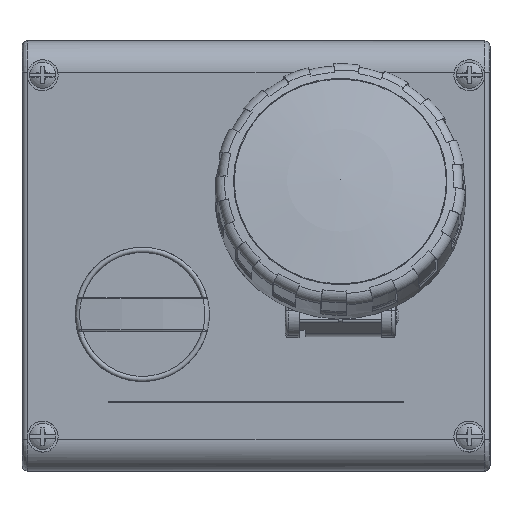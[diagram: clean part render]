
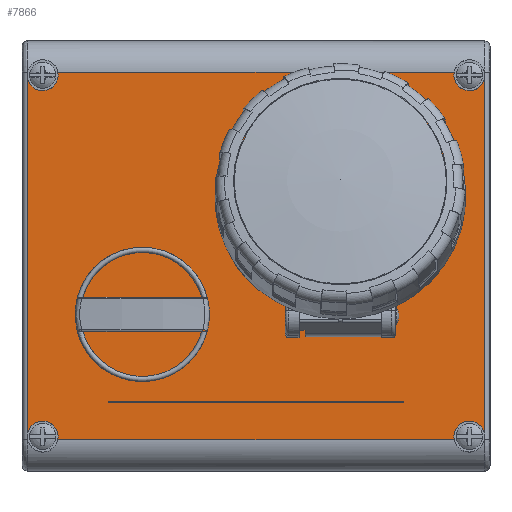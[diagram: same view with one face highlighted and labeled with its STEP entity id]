
A CAD part, top view. The second image highlights one B-rep face of the part: STEP entity #7866.
In plain terms, the highlighted planar face has unit normal (0, 0, 1).
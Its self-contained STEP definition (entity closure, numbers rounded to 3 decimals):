
#343=ELLIPSE('',#28028,25.623,24.75);
#344=ELLIPSE('',#28030,25.623,24.75);
#345=ELLIPSE('',#28032,25.623,24.75);
#355=ELLIPSE('',#28051,6.212,6.);
#356=ELLIPSE('',#28053,1.035,1.);
#367=ELLIPSE('',#28102,1.035,1.);
#845=B_SPLINE_CURVE_WITH_KNOTS('',3,(#49066,#49067,#49068,#49069,#49070,
#49071,#49072,#49073,#49074,#49075,#49076),.UNSPECIFIED.,.F.,.F.,(4,1,1,
1,1,1,1,1,4),(0.,0.063,0.127,0.253,0.5,
0.747,0.873,0.937,1.),.UNSPECIFIED.);
#846=B_SPLINE_CURVE_WITH_KNOTS('',3,(#49080,#49081,#49082,#49083,#49084,
#49085,#49086,#49087,#49088,#49089,#49090),.UNSPECIFIED.,.F.,.F.,(4,1,1,
1,1,1,1,1,4),(0.,0.063,0.127,0.253,
0.5,0.747,0.873,0.937,
1.),.UNSPECIFIED.);
#6990=FACE_BOUND('',#9970,.T.);
#6991=FACE_BOUND('',#9971,.T.);
#6992=FACE_BOUND('',#9972,.T.);
#7866=ADVANCED_FACE('',(#6990,#6991,#6992),#8282,.T.);
#8282=PLANE('',#28108);
#9970=EDGE_LOOP('',(#18651,#18652,#18653,#18654,#18655,#18656,#18657,#18658));
#9971=EDGE_LOOP('',(#18659,#18660,#18661,#18662));
#9972=EDGE_LOOP('',(#18663,#18664,#18665,#18666,#18667,#18668,#18669,#18670,
#18671,#18672,#18673,#18674));
#11884=LINE('',#48419,#13801);
#11885=LINE('',#48498,#13802);
#11886=LINE('',#48796,#13803);
#11888=LINE('',#49006,#13805);
#11889=LINE('',#49023,#13806);
#11898=LINE('',#49049,#13815);
#11901=LINE('',#49054,#13818);
#11905=LINE('',#49078,#13822);
#11906=LINE('',#49091,#13823);
#11907=LINE('',#49092,#13824);
#11908=LINE('',#49094,#13825);
#11909=LINE('',#49095,#13826);
#13801=VECTOR('',#33689,1.);
#13802=VECTOR('',#33692,1.);
#13803=VECTOR('',#33699,1.);
#13805=VECTOR('',#33727,1.);
#13806=VECTOR('',#33732,1.);
#13815=VECTOR('',#33753,1.);
#13818=VECTOR('',#33758,1.);
#13822=VECTOR('',#33776,1.);
#13823=VECTOR('',#33777,1.);
#13824=VECTOR('',#33778,1.);
#13825=VECTOR('',#33779,1.);
#13826=VECTOR('',#33780,1.);
#18651=ORIENTED_EDGE('',*,*,#25116,.T.);
#18652=ORIENTED_EDGE('',*,*,#25173,.F.);
#18653=ORIENTED_EDGE('',*,*,#25135,.T.);
#18654=ORIENTED_EDGE('',*,*,#25141,.F.);
#18655=ORIENTED_EDGE('',*,*,#25122,.T.);
#18656=ORIENTED_EDGE('',*,*,#25174,.F.);
#18657=ORIENTED_EDGE('',*,*,#25150,.T.);
#18658=ORIENTED_EDGE('',*,*,#25143,.F.);
#18659=ORIENTED_EDGE('',*,*,#25175,.T.);
#18660=ORIENTED_EDGE('',*,*,#25176,.T.);
#18661=ORIENTED_EDGE('',*,*,#25177,.T.);
#18662=ORIENTED_EDGE('',*,*,#25153,.F.);
#18663=ORIENTED_EDGE('',*,*,#25036,.T.);
#18664=ORIENTED_EDGE('',*,*,#25178,.T.);
#18665=ORIENTED_EDGE('',*,*,#25067,.F.);
#18666=ORIENTED_EDGE('',*,*,#25179,.F.);
#18667=ORIENTED_EDGE('',*,*,#25180,.T.);
#18668=ORIENTED_EDGE('',*,*,#25031,.T.);
#18669=ORIENTED_EDGE('',*,*,#25181,.T.);
#18670=ORIENTED_EDGE('',*,*,#25165,.T.);
#18671=ORIENTED_EDGE('',*,*,#25171,.T.);
#18672=ORIENTED_EDGE('',*,*,#25168,.F.);
#18673=ORIENTED_EDGE('',*,*,#25026,.T.);
#18674=ORIENTED_EDGE('',*,*,#25065,.T.);
#21522=VERTEX_POINT('',#47917);
#21523=VERTEX_POINT('',#47919);
#21527=VERTEX_POINT('',#47942);
#21528=VERTEX_POINT('',#47944);
#21532=VERTEX_POINT('',#47967);
#21533=VERTEX_POINT('',#47969);
#21557=VERTEX_POINT('',#48058);
#21559=VERTEX_POINT('',#48061);
#21600=VERTEX_POINT('',#48418);
#21601=VERTEX_POINT('',#48420);
#21605=VERTEX_POINT('',#48497);
#21606=VERTEX_POINT('',#48499);
#21613=VERTEX_POINT('',#48795);
#21614=VERTEX_POINT('',#48797);
#21618=VERTEX_POINT('',#48976);
#21623=VERTEX_POINT('',#49007);
#21625=VERTEX_POINT('',#49022);
#21626=VERTEX_POINT('',#49024);
#21632=VERTEX_POINT('',#49048);
#21633=VERTEX_POINT('',#49050);
#21634=VERTEX_POINT('',#49055);
#21635=VERTEX_POINT('',#49077);
#21636=VERTEX_POINT('',#49079);
#21637=VERTEX_POINT('',#49093);
#25026=EDGE_CURVE('',#21523,#21522,#343,.T.);
#25031=EDGE_CURVE('',#21528,#21527,#344,.T.);
#25036=EDGE_CURVE('',#21533,#21532,#345,.T.);
#25065=EDGE_CURVE('',#21522,#21533,#355,.T.);
#25067=EDGE_CURVE('',#21557,#21559,#356,.T.);
#25116=EDGE_CURVE('',#21601,#21600,#11884,.T.);
#25122=EDGE_CURVE('',#21606,#21605,#11885,.T.);
#25135=EDGE_CURVE('',#21614,#21613,#11886,.T.);
#25141=EDGE_CURVE('',#21606,#21613,#26191,.T.);
#25143=EDGE_CURVE('',#21601,#21618,#26193,.T.);
#25150=EDGE_CURVE('',#21623,#21618,#11888,.T.);
#25153=EDGE_CURVE('',#21625,#21626,#11889,.T.);
#25165=EDGE_CURVE('',#21633,#21632,#11898,.T.);
#25168=EDGE_CURVE('',#21523,#21634,#11901,.T.);
#25171=EDGE_CURVE('',#21632,#21634,#367,.T.);
#25173=EDGE_CURVE('',#21614,#21600,#26199,.T.);
#25174=EDGE_CURVE('',#21623,#21605,#26200,.T.);
#25175=EDGE_CURVE('',#21625,#21635,#845,.T.);
#25176=EDGE_CURVE('',#21635,#21636,#11905,.T.);
#25177=EDGE_CURVE('',#21636,#21626,#846,.T.);
#25178=EDGE_CURVE('',#21532,#21559,#11906,.T.);
#25179=EDGE_CURVE('',#21637,#21557,#11907,.T.);
#25180=EDGE_CURVE('',#21637,#21528,#11908,.T.);
#25181=EDGE_CURVE('',#21527,#21633,#11909,.T.);
#26191=CIRCLE('',#28081,4.5);
#26193=CIRCLE('',#28084,4.5);
#26199=CIRCLE('',#28106,4.5);
#26200=CIRCLE('',#28107,4.5);
#28028=AXIS2_PLACEMENT_3D('',#47918,#33564,#33565);
#28030=AXIS2_PLACEMENT_3D('',#47943,#33570,#33571);
#28032=AXIS2_PLACEMENT_3D('',#47968,#33576,#33577);
#28051=AXIS2_PLACEMENT_3D('',#48055,#33626,#33627);
#28053=AXIS2_PLACEMENT_3D('',#48060,#33631,#33632);
#28081=AXIS2_PLACEMENT_3D('',#48971,#33705,#33706);
#28084=AXIS2_PLACEMENT_3D('',#48975,#33711,#33712);
#28102=AXIS2_PLACEMENT_3D('',#49059,#33763,#33764);
#28106=AXIS2_PLACEMENT_3D('',#49064,#33772,#33773);
#28107=AXIS2_PLACEMENT_3D('',#49065,#33774,#33775);
#28108=AXIS2_PLACEMENT_3D('',#49096,#33781,#33782);
#33564=DIRECTION('',(0.,0.,-1.));
#33565=DIRECTION('',(0.,-1.,0.));
#33570=DIRECTION('',(0.,0.,-1.));
#33571=DIRECTION('',(0.,-1.,0.));
#33576=DIRECTION('',(0.,0.,-1.));
#33577=DIRECTION('',(0.,-1.,0.));
#33626=DIRECTION('',(0.,0.,-1.));
#33627=DIRECTION('',(0.,-1.,0.));
#33631=DIRECTION('',(0.,0.,1.));
#33632=DIRECTION('',(0.,-1.,0.));
#33689=DIRECTION('',(1.,0.,0.));
#33692=DIRECTION('',(-1.,0.,0.));
#33699=DIRECTION('',(0.,1.,0.));
#33705=DIRECTION('',(0.,0.,1.));
#33706=DIRECTION('',(1.,0.,0.));
#33711=DIRECTION('',(0.,0.,1.));
#33712=DIRECTION('',(1.,0.,0.));
#33727=DIRECTION('',(0.,-1.,0.));
#33732=DIRECTION('',(1.,0.,0.));
#33753=DIRECTION('',(-1.,0.,0.));
#33758=DIRECTION('',(0.,-1.,0.));
#33763=DIRECTION('',(0.,0.,-1.));
#33764=DIRECTION('',(0.,-1.,0.));
#33772=DIRECTION('',(0.,0.,1.));
#33773=DIRECTION('',(1.,0.,0.));
#33774=DIRECTION('',(0.,0.,1.));
#33775=DIRECTION('',(1.,0.,0.));
#33776=DIRECTION('',(1.,0.,0.));
#33777=DIRECTION('',(0.,-1.,0.));
#33778=DIRECTION('',(1.,0.,0.));
#33779=DIRECTION('',(0.,1.,0.));
#33780=DIRECTION('',(0.,-1.,0.));
#33781=DIRECTION('',(0.,0.,1.));
#33782=DIRECTION('',(-1.,0.,0.));
#47917=CARTESIAN_POINT('',(18.881,38.454,16.));
#47918=CARTESIAN_POINT('',(24.5,13.5,16.));
#47919=CARTESIAN_POINT('',(8.5,-6.049,16.));
#47942=CARTESIAN_POINT('',(12.5,-8.91,16.));
#47943=CARTESIAN_POINT('',(24.5,13.5,16.));
#47944=CARTESIAN_POINT('',(36.5,-8.91,16.));
#47967=CARTESIAN_POINT('',(40.5,-6.049,16.));
#47968=CARTESIAN_POINT('',(24.5,13.5,16.));
#47969=CARTESIAN_POINT('',(30.119,38.454,16.));
#48055=CARTESIAN_POINT('',(24.5,36.276,16.));
#48058=CARTESIAN_POINT('',(39.5,-21.332,16.));
#48060=CARTESIAN_POINT('',(39.5,-20.297,16.));
#48061=CARTESIAN_POINT('',(40.5,-20.297,16.));
#48418=CARTESIAN_POINT('',(57.599,-53.439,16.));
#48419=CARTESIAN_POINT('',(-57.599,-53.439,16.));
#48420=CARTESIAN_POINT('',(-57.599,-53.439,16.));
#48497=CARTESIAN_POINT('',(-57.599,53.439,16.));
#48498=CARTESIAN_POINT('',(57.599,53.439,16.));
#48499=CARTESIAN_POINT('',(57.599,53.439,16.));
#48795=CARTESIAN_POINT('',(66.373,51.44,16.));
#48796=CARTESIAN_POINT('',(66.373,-51.44,16.));
#48797=CARTESIAN_POINT('',(66.373,-51.44,16.));
#48971=CARTESIAN_POINT('',(62.,52.5,16.));
#48975=CARTESIAN_POINT('',(-62.,-52.5,16.));
#48976=CARTESIAN_POINT('',(-66.373,-51.44,16.));
#49006=CARTESIAN_POINT('',(-66.373,51.44,16.));
#49007=CARTESIAN_POINT('',(-66.373,51.44,16.));
#49022=CARTESIAN_POINT('',(-42.875,-42.5,16.));
#49023=CARTESIAN_POINT('',(-42.875,-42.5,16.));
#49024=CARTESIAN_POINT('',(42.875,-42.5,16.));
#49048=CARTESIAN_POINT('',(9.5,-21.332,16.));
#49049=CARTESIAN_POINT('',(12.5,-21.332,16.));
#49050=CARTESIAN_POINT('',(12.5,-21.332,16.));
#49054=CARTESIAN_POINT('',(8.5,-6.049,16.));
#49055=CARTESIAN_POINT('',(8.5,-20.297,16.));
#49059=CARTESIAN_POINT('',(9.5,-20.297,16.));
#49064=CARTESIAN_POINT('',(62.,-52.5,16.));
#49065=CARTESIAN_POINT('',(-62.,52.5,16.));
#49066=CARTESIAN_POINT('',(-42.875,-42.5,16.));
#49067=CARTESIAN_POINT('',(-42.883,-42.5,16.));
#49068=CARTESIAN_POINT('',(-42.9,-42.498,16.));
#49069=CARTESIAN_POINT('',(-42.931,-42.489,16.));
#49070=CARTESIAN_POINT('',(-42.979,-42.457,16.));
#49071=CARTESIAN_POINT('',(-43.014,-42.375,16.));
#49072=CARTESIAN_POINT('',(-42.979,-42.293,16.));
#49073=CARTESIAN_POINT('',(-42.931,-42.261,16.));
#49074=CARTESIAN_POINT('',(-42.9,-42.252,16.));
#49075=CARTESIAN_POINT('',(-42.883,-42.25,16.));
#49076=CARTESIAN_POINT('',(-42.875,-42.25,16.));
#49077=CARTESIAN_POINT('',(-42.875,-42.25,16.));
#49078=CARTESIAN_POINT('',(42.875,-42.25,16.));
#49079=CARTESIAN_POINT('',(42.875,-42.25,16.));
#49080=CARTESIAN_POINT('',(42.875,-42.25,16.));
#49081=CARTESIAN_POINT('',(42.883,-42.25,16.));
#49082=CARTESIAN_POINT('',(42.9,-42.252,16.));
#49083=CARTESIAN_POINT('',(42.931,-42.261,16.));
#49084=CARTESIAN_POINT('',(42.979,-42.293,16.));
#49085=CARTESIAN_POINT('',(43.014,-42.375,16.));
#49086=CARTESIAN_POINT('',(42.979,-42.457,16.));
#49087=CARTESIAN_POINT('',(42.931,-42.489,16.));
#49088=CARTESIAN_POINT('',(42.9,-42.498,16.));
#49089=CARTESIAN_POINT('',(42.883,-42.5,16.));
#49090=CARTESIAN_POINT('',(42.875,-42.5,16.));
#49091=CARTESIAN_POINT('',(40.5,-6.049,16.));
#49092=CARTESIAN_POINT('',(36.5,-21.332,16.));
#49093=CARTESIAN_POINT('',(36.5,-21.332,16.));
#49094=CARTESIAN_POINT('',(36.5,-8.91,16.));
#49095=CARTESIAN_POINT('',(12.5,-8.91,16.));
#49096=CARTESIAN_POINT('',(-81.6,-75.,16.));
